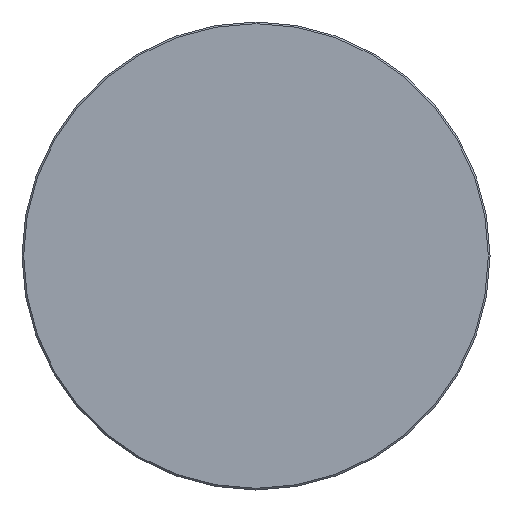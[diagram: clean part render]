
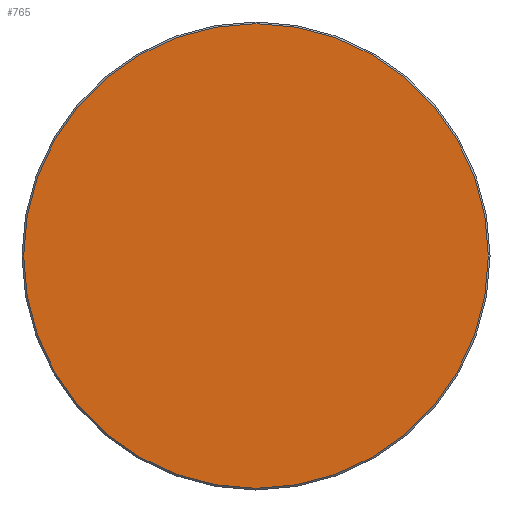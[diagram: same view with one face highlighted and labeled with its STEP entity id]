
A CAD part, left-side view. The second image highlights one B-rep face of the part: STEP entity #765.
In plain terms, the highlighted planar face has unit normal (-1, 0, 0).
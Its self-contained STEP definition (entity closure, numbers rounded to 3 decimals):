
#139 = VERTEX_POINT ( 'NONE', #1230 ) ;
#246 = ORIENTED_EDGE ( 'NONE', *, *, #375, .T. ) ;
#273 = ORIENTED_EDGE ( 'NONE', *, *, #733, .T. ) ;
#283 = VERTEX_POINT ( 'NONE', #1249 ) ;
#302 = AXIS2_PLACEMENT_3D ( 'NONE', #910, #936, #939 ) ;
#312 = AXIS2_PLACEMENT_3D ( 'NONE', #1020, #1005, #1039 ) ;
#375 = EDGE_CURVE ( 'NONE', #139, #283, #459, .T. ) ;
#392 = AXIS2_PLACEMENT_3D ( 'NONE', #814, #816, #815 ) ;
#424 = CIRCLE ( 'NONE', #302, 41.7 ) ;
#459 = CIRCLE ( 'NONE', #392, 41.7 ) ;
#534 = FACE_OUTER_BOUND ( 'NONE', #707, .T. ) ;
#707 = EDGE_LOOP ( 'NONE', ( #246, #273 ) ) ;
#733 = EDGE_CURVE ( 'NONE', #283, #139, #424, .T. ) ;
#765 = ADVANCED_FACE ( 'NONE', ( #534 ), #1007, .F. ) ;
#814 = CARTESIAN_POINT ( 'NONE',  ( -162.4, 0., 0. ) ) ;
#815 = DIRECTION ( 'NONE',  ( 0., 0., -1. ) ) ;
#816 = DIRECTION ( 'NONE',  ( -1., 0., 0. ) ) ;
#910 = CARTESIAN_POINT ( 'NONE',  ( -162.4, 0., 0. ) ) ;
#936 = DIRECTION ( 'NONE',  ( -1., 0., 0. ) ) ;
#939 = DIRECTION ( 'NONE',  ( 0., 0., -1. ) ) ;
#1005 = DIRECTION ( 'NONE',  ( 1., 0., 0. ) ) ;
#1007 = PLANE ( 'NONE',  #312 ) ;
#1020 = CARTESIAN_POINT ( 'NONE',  ( -162.4, 42., 0. ) ) ;
#1039 = DIRECTION ( 'NONE',  ( 0., 0., -1. ) ) ;
#1230 = CARTESIAN_POINT ( 'NONE',  ( -162.4, 0., -41.7 ) ) ;
#1249 = CARTESIAN_POINT ( 'NONE',  ( -162.4, 0., 41.7 ) ) ;
